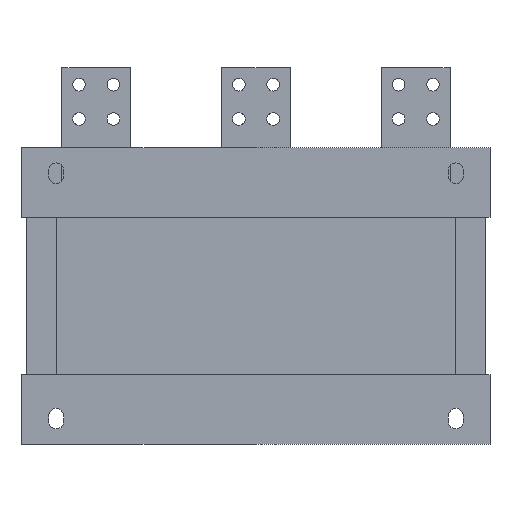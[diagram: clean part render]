
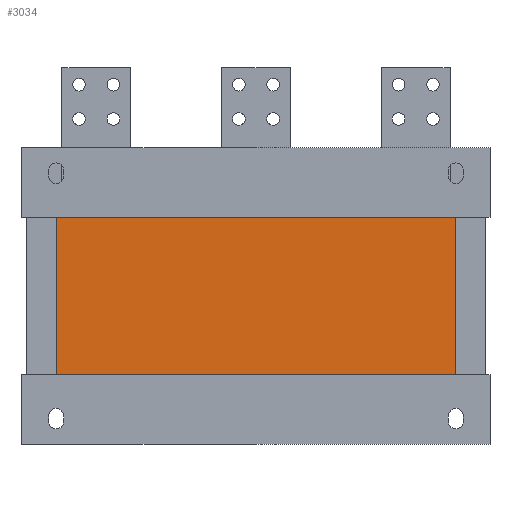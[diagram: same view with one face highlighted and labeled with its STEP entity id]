
A CAD part, front view. The second image highlights one B-rep face of the part: STEP entity #3034.
In plain terms, the highlighted planar face has unit normal (0, -1, 0).
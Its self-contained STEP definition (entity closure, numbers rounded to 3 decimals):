
#128=PLANE('',#3294);
#270=FACE_OUTER_BOUND('',#472,.T.);
#472=EDGE_LOOP('',(#2475,#2476,#2477,#2478));
#724=LINE('',#4767,#1052);
#725=LINE('',#4769,#1053);
#726=LINE('',#4771,#1054);
#727=LINE('',#4772,#1055);
#1052=VECTOR('',#3904,10.);
#1053=VECTOR('',#3905,10.);
#1054=VECTOR('',#3906,10.);
#1055=VECTOR('',#3907,10.);
#1491=VERTEX_POINT('',#4765);
#1492=VERTEX_POINT('',#4766);
#1493=VERTEX_POINT('',#4768);
#1494=VERTEX_POINT('',#4770);
#1856=EDGE_CURVE('',#1491,#1492,#724,.T.);
#1857=EDGE_CURVE('',#1493,#1491,#725,.T.);
#1858=EDGE_CURVE('',#1494,#1493,#726,.T.);
#1859=EDGE_CURVE('',#1492,#1494,#727,.T.);
#2475=ORIENTED_EDGE('',*,*,#1856,.F.);
#2476=ORIENTED_EDGE('',*,*,#1857,.F.);
#2477=ORIENTED_EDGE('',*,*,#1858,.F.);
#2478=ORIENTED_EDGE('',*,*,#1859,.F.);
#3034=ADVANCED_FACE('',(#270),#128,.F.);
#3294=AXIS2_PLACEMENT_3D('',#4764,#3902,#3903);
#3902=DIRECTION('center_axis',(0.,1.,0.));
#3903=DIRECTION('ref_axis',(0.,0.,1.));
#3904=DIRECTION('',(1.,0.,0.));
#3905=DIRECTION('',(0.,0.,1.));
#3906=DIRECTION('',(-1.,0.,0.));
#3907=DIRECTION('',(0.,0.,-1.));
#4764=CARTESIAN_POINT('Origin',(0.,2.,0.));
#4765=CARTESIAN_POINT('',(-175.,2.,69.));
#4766=CARTESIAN_POINT('',(175.,2.,69.));
#4767=CARTESIAN_POINT('',(175.,2.,69.));
#4768=CARTESIAN_POINT('',(-175.,2.,-69.));
#4769=CARTESIAN_POINT('',(-175.,2.,-34.5));
#4770=CARTESIAN_POINT('',(175.,2.,-69.));
#4771=CARTESIAN_POINT('',(-175.,2.,-69.));
#4772=CARTESIAN_POINT('',(175.,2.,34.5));
